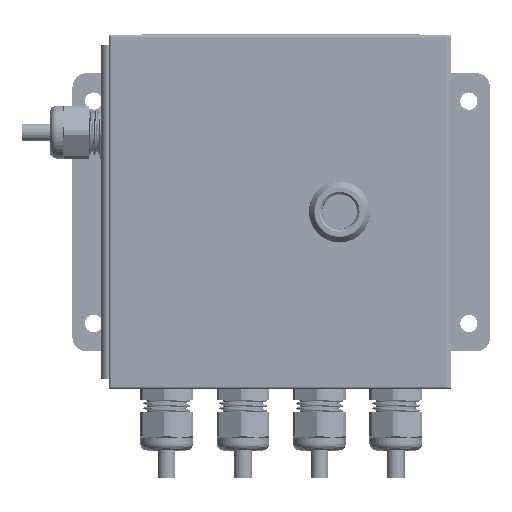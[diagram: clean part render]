
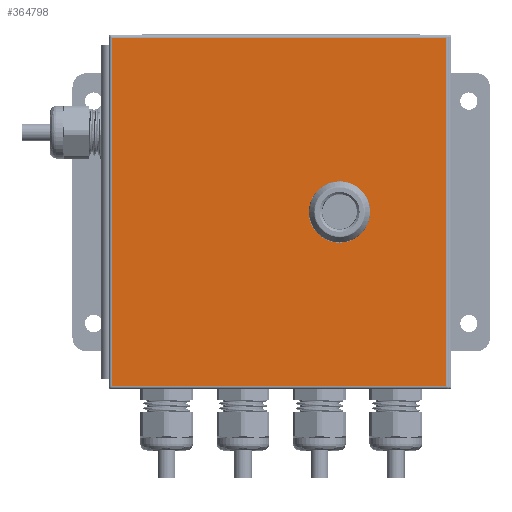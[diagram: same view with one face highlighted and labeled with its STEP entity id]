
A CAD part, top view. The second image highlights one B-rep face of the part: STEP entity #364798.
In plain terms, the highlighted planar face has unit normal (0, 0, 1).
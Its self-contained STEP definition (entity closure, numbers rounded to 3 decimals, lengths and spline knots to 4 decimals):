
#3184 = VERTEX_POINT ( 'NONE', #170583 ) ;
#8442 = VECTOR ( 'NONE', #387158, 39.3701 ) ;
#11780 = ORIENTED_EDGE ( 'NONE', *, *, #210470, .F. ) ;
#12169 = ORIENTED_EDGE ( 'NONE', *, *, #99305, .F. ) ;
#27661 = EDGE_CURVE ( 'NONE', #3184, #136218, #305928, .T. ) ;
#31408 = LINE ( 'NONE', #174198, #294064 ) ;
#40696 = DIRECTION ( 'NONE',  ( 0., 0., 1. ) ) ;
#44628 = DIRECTION ( 'NONE',  ( 0., 0., 1. ) ) ;
#45372 = CARTESIAN_POINT ( 'NONE',  ( 0.692, 0.1996, 0. ) ) ;
#51037 = DIRECTION ( 'NONE',  ( -1., 0., 0. ) ) ;
#57781 = CIRCLE ( 'NONE', #371811, 0.443 ) ;
#61863 = VERTEX_POINT ( 'NONE', #446025 ) ;
#75786 = CARTESIAN_POINT ( 'NONE',  ( 1.0875, 0., 0. ) ) ;
#80432 = DIRECTION ( 'NONE',  ( 1., 0., 0. ) ) ;
#81508 = ORIENTED_EDGE ( 'NONE', *, *, #404338, .F. ) ;
#84346 = CARTESIAN_POINT ( 'NONE',  ( 1.0875, 0., 0. ) ) ;
#96508 = FACE_BOUND ( 'NONE', #193821, .T. ) ;
#97901 = EDGE_CURVE ( 'NONE', #417385, #61863, #31408, .T. ) ;
#99305 = EDGE_CURVE ( 'NONE', #198285, #359479, #233962, .T. ) ;
#111328 = EDGE_CURVE ( 'NONE', #300513, #444843, #57781, .T. ) ;
#114753 = CIRCLE ( 'NONE', #174592, 0.443 ) ;
#116831 = CARTESIAN_POINT ( 'NONE',  ( 1.483, -0.1996, 0. ) ) ;
#118492 = DIRECTION ( 'NONE',  ( 0., -1., 0. ) ) ;
#118972 = LINE ( 'NONE', #163298, #403085 ) ;
#121279 = ORIENTED_EDGE ( 'NONE', *, *, #383472, .F. ) ;
#124708 = PLANE ( 'NONE',  #369658 ) ;
#127022 = FACE_OUTER_BOUND ( 'NONE', #312633, .T. ) ;
#132737 = LINE ( 'NONE', #205245, #349240 ) ;
#136218 = VERTEX_POINT ( 'NONE', #307544 ) ;
#140942 = CARTESIAN_POINT ( 'NONE',  ( 0.692, -0.1996, 0. ) ) ;
#142128 = CARTESIAN_POINT ( 'NONE',  ( 1.2871, -0.3955, 0. ) ) ;
#147935 = VECTOR ( 'NONE', #330899, 39.3701 ) ;
#163298 = CARTESIAN_POINT ( 'NONE',  ( 0.8879, 0.3955, 0. ) ) ;
#170583 = CARTESIAN_POINT ( 'NONE',  ( 0.8879, 0.3955, 0. ) ) ;
#174198 = CARTESIAN_POINT ( 'NONE',  ( 3.0095, -3.1345, 0. ) ) ;
#174230 = CARTESIAN_POINT ( 'NONE',  ( -3.0095, -3.1345, 0. ) ) ;
#174592 = AXIS2_PLACEMENT_3D ( 'NONE', #430265, #353207, #210456 ) ;
#179095 = DIRECTION ( 'NONE',  ( 0., 0., 1. ) ) ;
#179569 = VECTOR ( 'NONE', #118492, 39.3701 ) ;
#185063 = DIRECTION ( 'NONE',  ( 1., 0., 0. ) ) ;
#185813 = LINE ( 'NONE', #45372, #147935 ) ;
#193821 = EDGE_LOOP ( 'NONE', ( #12169, #121279, #329013, #251773, #81508, #11780, #244801, #443093 ) ) ;
#196690 = LINE ( 'NONE', #236426, #303262 ) ;
#198285 = VERTEX_POINT ( 'NONE', #443324 ) ;
#205245 = CARTESIAN_POINT ( 'NONE',  ( 0.8879, -0.3955, 0. ) ) ;
#210456 = DIRECTION ( 'NONE',  ( 1., 0., 0. ) ) ;
#210470 = EDGE_CURVE ( 'NONE', #136218, #352738, #185813, .T. ) ;
#212321 = CARTESIAN_POINT ( 'NONE',  ( 3.0095, 3.1345, 0. ) ) ;
#216202 = CARTESIAN_POINT ( 'NONE',  ( 0.8879, -0.3955, 0. ) ) ;
#216513 = DIRECTION ( 'NONE',  ( 1., 0., 0. ) ) ;
#220847 = VERTEX_POINT ( 'NONE', #216202 ) ;
#233962 = CIRCLE ( 'NONE', #353522, 0.443 ) ;
#236426 = CARTESIAN_POINT ( 'NONE',  ( 1.483, 0.1996, 0. ) ) ;
#238053 = DIRECTION ( 'NONE',  ( 1., 0., 0. ) ) ;
#244801 = ORIENTED_EDGE ( 'NONE', *, *, #27661, .F. ) ;
#249015 = LINE ( 'NONE', #174230, #8442 ) ;
#251773 = ORIENTED_EDGE ( 'NONE', *, *, #410967, .F. ) ;
#257763 = VERTEX_POINT ( 'NONE', #450177 ) ;
#263531 = CARTESIAN_POINT ( 'NONE',  ( -3.0095, 3.1345, 0. ) ) ;
#274053 = ORIENTED_EDGE ( 'NONE', *, *, #278448, .T. ) ;
#278448 = EDGE_CURVE ( 'NONE', #61863, #337381, #348164, .T. ) ;
#294064 = VECTOR ( 'NONE', #316945, 39.3701 ) ;
#300513 = VERTEX_POINT ( 'NONE', #142128 ) ;
#303252 = CARTESIAN_POINT ( 'NONE',  ( -3.0095, 3.1345, 0. ) ) ;
#303262 = VECTOR ( 'NONE', #339445, 39.3701 ) ;
#304855 = DIRECTION ( 'NONE',  ( 0., 0., 1. ) ) ;
#305928 = CIRCLE ( 'NONE', #425472, 0.443 ) ;
#307167 = DIRECTION ( 'NONE',  ( 1., 0., 0. ) ) ;
#307544 = CARTESIAN_POINT ( 'NONE',  ( 0.692, 0.1996, 0. ) ) ;
#309495 = CARTESIAN_POINT ( 'NONE',  ( 0., 0., 0. ) ) ;
#312633 = EDGE_LOOP ( 'NONE', ( #274053, #390793, #354646, #461535 ) ) ;
#312696 = CARTESIAN_POINT ( 'NONE',  ( 3.0095, -3.1345, 0. ) ) ;
#316945 = DIRECTION ( 'NONE',  ( 0., 1., 0. ) ) ;
#329013 = ORIENTED_EDGE ( 'NONE', *, *, #111328, .F. ) ;
#330899 = DIRECTION ( 'NONE',  ( 0., -1., 0. ) ) ;
#337381 = VERTEX_POINT ( 'NONE', #263531 ) ;
#339445 = DIRECTION ( 'NONE',  ( 0., 1., 0. ) ) ;
#348164 = LINE ( 'NONE', #212321, #392367 ) ;
#349240 = VECTOR ( 'NONE', #238053, 39.3701 ) ;
#352738 = VERTEX_POINT ( 'NONE', #140942 ) ;
#353207 = DIRECTION ( 'NONE',  ( 0., 0., 1. ) ) ;
#353522 = AXIS2_PLACEMENT_3D ( 'NONE', #75786, #40696, #80432 ) ;
#354646 = ORIENTED_EDGE ( 'NONE', *, *, #430398, .T. ) ;
#359479 = VERTEX_POINT ( 'NONE', #406106 ) ;
#364798 = ADVANCED_FACE ( 'NONE', ( #96508, #127022 ), #124708, .T. ) ;
#369658 = AXIS2_PLACEMENT_3D ( 'NONE', #309495, #304855, #307167 ) ;
#371811 = AXIS2_PLACEMENT_3D ( 'NONE', #422543, #179095, #216513 ) ;
#383472 = EDGE_CURVE ( 'NONE', #444843, #198285, #196690, .T. ) ;
#387158 = DIRECTION ( 'NONE',  ( 1., 0., 0. ) ) ;
#390793 = ORIENTED_EDGE ( 'NONE', *, *, #392113, .T. ) ;
#390859 = EDGE_CURVE ( 'NONE', #359479, #3184, #118972, .T. ) ;
#392113 = EDGE_CURVE ( 'NONE', #337381, #257763, #408567, .T. ) ;
#392367 = VECTOR ( 'NONE', #462609, 39.3701 ) ;
#403085 = VECTOR ( 'NONE', #51037, 39.3701 ) ;
#404338 = EDGE_CURVE ( 'NONE', #352738, #220847, #114753, .T. ) ;
#406106 = CARTESIAN_POINT ( 'NONE',  ( 1.2871, 0.3955, 0. ) ) ;
#408567 = LINE ( 'NONE', #303252, #179569 ) ;
#410967 = EDGE_CURVE ( 'NONE', #220847, #300513, #132737, .T. ) ;
#417385 = VERTEX_POINT ( 'NONE', #312696 ) ;
#422543 = CARTESIAN_POINT ( 'NONE',  ( 1.0875, 0., 0. ) ) ;
#425472 = AXIS2_PLACEMENT_3D ( 'NONE', #84346, #44628, #185063 ) ;
#430265 = CARTESIAN_POINT ( 'NONE',  ( 1.0875, 0., 0. ) ) ;
#430398 = EDGE_CURVE ( 'NONE', #257763, #417385, #249015, .T. ) ;
#443093 = ORIENTED_EDGE ( 'NONE', *, *, #390859, .F. ) ;
#443324 = CARTESIAN_POINT ( 'NONE',  ( 1.483, 0.1996, 0. ) ) ;
#444843 = VERTEX_POINT ( 'NONE', #116831 ) ;
#446025 = CARTESIAN_POINT ( 'NONE',  ( 3.0095, 3.1345, 0. ) ) ;
#450177 = CARTESIAN_POINT ( 'NONE',  ( -3.0095, -3.1345, 0. ) ) ;
#461535 = ORIENTED_EDGE ( 'NONE', *, *, #97901, .T. ) ;
#462609 = DIRECTION ( 'NONE',  ( -1., 0., 0. ) ) ;
